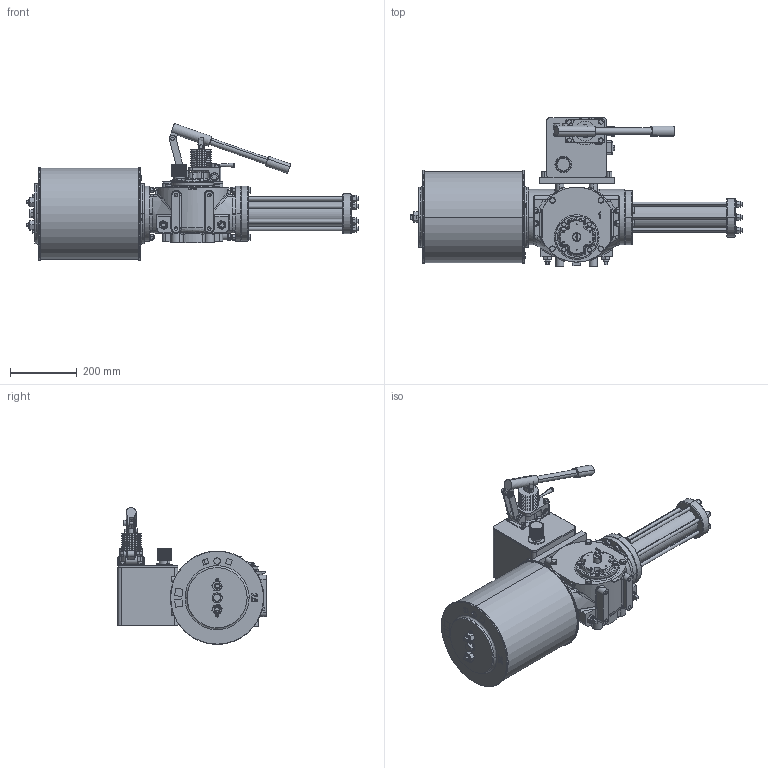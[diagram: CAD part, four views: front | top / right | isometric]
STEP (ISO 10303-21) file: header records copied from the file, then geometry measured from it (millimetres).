
FILE_DESCRIPTION (( 'STEP AP203' ), '1' );
FILE_NAME ('VTS1-250-MH.STEP', '2023-01-01T07:40:40', ( '' ), ( '' ), 'SwSTEP 2.0', 'SolidWorks 2020', '' );
FILE_SCHEMA (( 'CONFIG_CONTROL_DESIGN' ));
Length unit declared in the file: millimetre
Products named in the file (1): VTS1-250-MH
Bounding box: 995 x 445.4 x 410.27 mm (x, y, z)
Volume: 30685262.4 mm3; surface area: 1653703.1 mm2
Topology: 59 solids, 65 shells, 2563 faces, 6433 edges, 4080 vertices
Faces by surface type: plane 969, cylinder 807, cone 490, bspline 235, torus 34, sphere 28
Entity records: 102243 total; most frequent: CARTESIAN_POINT 43770, ORIENTED_EDGE 12710, DIRECTION 11260, EDGE_CURVE 6355, AXIS2_PLACEMENT_3D 4341, VERTEX_POINT 4080, EDGE_LOOP 2877, LINE 2578
